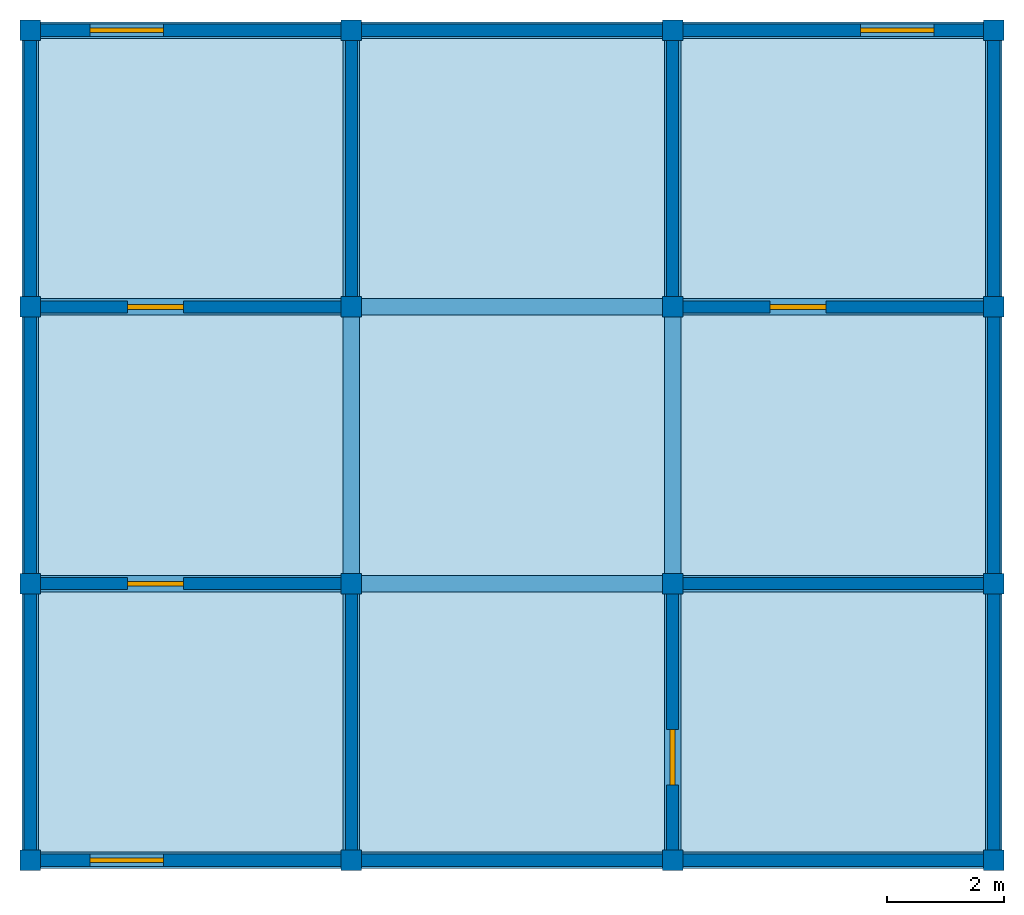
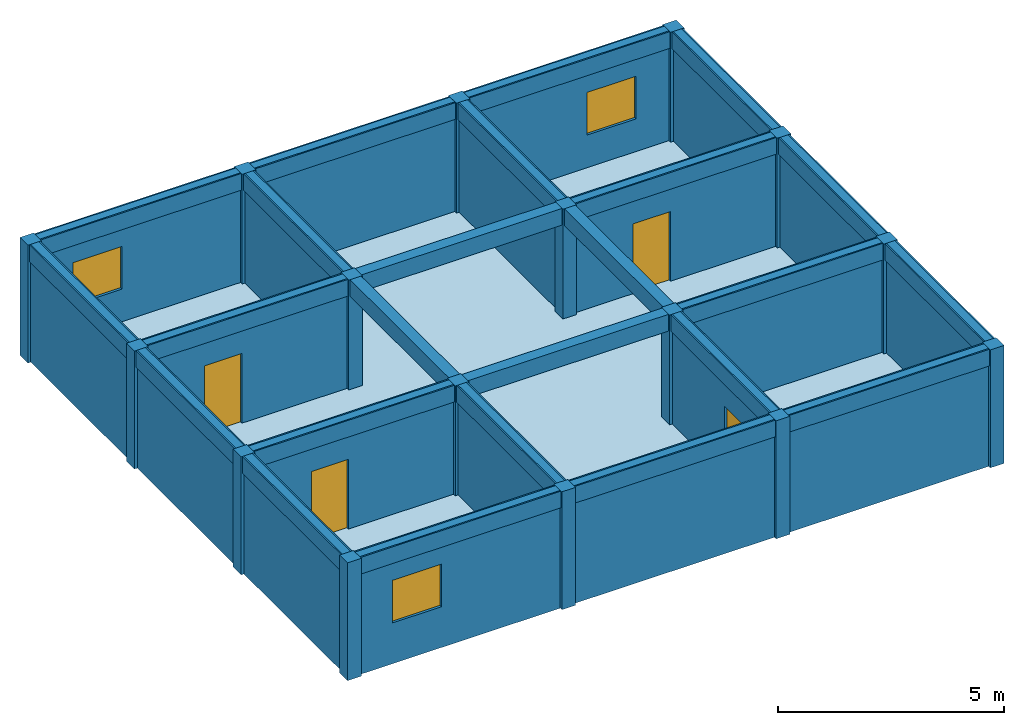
# One storey: 24 beams, 20 walls, 16 columns, 4 doors, 3 windows, 1 slab, 7 openings.
"""IFC4X3 building model written with IfcOpenShell, lengths in metres."""

from ifc_helpers import new_model, si_unit, frame, origin_with_axes, origin_2d, place, context, project, spatial, rectangle, extrude, material, element, fill, save


model = new_model("IFC4X3")

# Units and contexts
model_context = context("Model", 3, precision=1e-05, world=origin_with_axes())
ifc_project = project(units=[si_unit("LENGTHUNIT", "METRE"), si_unit("AREAUNIT", "SQUARE_METRE"), si_unit("VOLUMEUNIT", "CUBIC_METRE")], contexts=[model_context])

# Site, building, storey
site = spatial("IfcSite", under=ifc_project, Name="Antofagasta Parcel", CompositionType="ELEMENT")
building = spatial("IfcBuilding", under=site, Name="Nexo Block", CompositionType="ELEMENT")
storey = spatial("IfcBuildingStorey", under=building, Name="Level 2", CompositionType="ELEMENT", Elevation=3.18)

# Columns
ifc_material_1 = material(Name="Timber")
column_1_placement = place(None, frame((-8.2, -7.065, 3.181), z_axis=(0.0, 0.0, 1.0), x_axis=(1.0, 0.0, 0.0)))
element("IfcColumn", 1, at=column_1_placement, inside=storey, material=ifc_material_1, Name="Column 2.1", ObjectType="Structural Column", PredefinedType="NOTDEFINED", context=model_context, shape_type="SweptSolid", body=[
    extrude(rectangle(XDim=0.35, YDim=0.35, at=origin_2d()), origin_with_axes(), (0.0, 0.0, 1.0), 3.181),
])
column_2_placement = place(None, frame((-8.2, -2.355, 3.181), z_axis=(0.0, 0.0, 1.0), x_axis=(1.0, 0.0, 0.0)))
element("IfcColumn", 2, at=column_2_placement, inside=storey, material=ifc_material_1, Name="Column 2.2", ObjectType="Structural Column", PredefinedType="USERDEFINED", context=model_context, shape_type="SweptSolid", body=[
    extrude(rectangle(XDim=0.35, YDim=0.35, at=origin_2d()), origin_with_axes(), (0.0, 0.0, 1.0), 3.181),
])
column_3_placement = place(None, frame((-8.2, 2.355, 3.181), z_axis=(0.0, 0.0, 1.0), x_axis=(1.0, 0.0, 0.0)))
element("IfcColumn", 3, at=column_3_placement, inside=storey, material=ifc_material_1, Name="Column 2.3", ObjectType="Facade Column", PredefinedType="USERDEFINED", context=model_context, shape_type="SweptSolid", body=[
    extrude(rectangle(XDim=0.35, YDim=0.35, at=origin_2d()), origin_with_axes(), (0.0, 0.0, 1.0), 3.181),
])
column_4_placement = place(None, frame((-8.2, 7.065, 3.181), z_axis=(0.0, 0.0, 1.0), x_axis=(1.0, 0.0, 0.0)))
element("IfcColumn", 4, at=column_4_placement, inside=storey, material=ifc_material_1, Name="Column 2.4", ObjectType="Core Column", PredefinedType="COLUMN", context=model_context, shape_type="SweptSolid", body=[
    extrude(rectangle(XDim=0.35, YDim=0.35, at=origin_2d()), origin_with_axes(), (0.0, 0.0, 1.0), 3.181),
])
column_5_placement = place(None, frame((-2.733, -7.065, 3.181), z_axis=(0.0, 0.0, 1.0), x_axis=(1.0, 0.0, 0.0)))
element("IfcColumn", 5, at=column_5_placement, inside=storey, material=ifc_material_1, Name="Column 2.5", ObjectType="Facade Column", PredefinedType="COLUMN", context=model_context, shape_type="SweptSolid", body=[
    extrude(rectangle(XDim=0.35, YDim=0.35, at=origin_2d()), origin_with_axes(), (0.0, 0.0, 1.0), 3.181),
])
for number, where, z_axis, x_axis, name in (
    (6, (-2.733, -2.355, 3.181), (0.0, 0.0, 1.0), (1.0, 0.0, 0.0), "Column 2.6"),
    (7, (-2.733, 2.355, 3.181), (0.0, 0.0, 1.0), (1.0, 0.0, 0.0), "Column 2.7"),
):
    element("IfcColumn", number, at=place(None, frame(where, z_axis=z_axis, x_axis=x_axis)), inside=storey, material=ifc_material_1, Name=name, ObjectType="Core Column", PredefinedType="COLUMN", context=model_context, shape_type="SweptSolid", body=[
        extrude(rectangle(XDim=0.35, YDim=0.35, at=origin_2d()), origin_with_axes(), (0.0, 0.0, 1.0), 3.181),
    ])
column_6_placement = place(None, frame((-2.733, 7.065, 3.181), z_axis=(0.0, 0.0, 1.0), x_axis=(1.0, 0.0, 0.0)))
element("IfcColumn", 8, at=column_6_placement, inside=storey, material=ifc_material_1, Name="Column 2.8", ObjectType="Corner Column", PredefinedType="PILASTER", context=model_context, shape_type="SweptSolid", body=[
    extrude(rectangle(XDim=0.35, YDim=0.35, at=origin_2d()), origin_with_axes(), (0.0, 0.0, 1.0), 3.181),
])
column_7_placement = place(None, frame((2.734, -7.065, 3.181), z_axis=(0.0, 0.0, 1.0), x_axis=(1.0, 0.0, 0.0)))
element("IfcColumn", 9, at=column_7_placement, inside=storey, material=ifc_material_1, Name="Column 2.9", ObjectType="Core Column", PredefinedType="COLUMN", context=model_context, shape_type="SweptSolid", body=[
    extrude(rectangle(XDim=0.35, YDim=0.35, at=origin_2d()), origin_with_axes(), (0.0, 0.0, 1.0), 3.181),
])
column_8_placement = place(None, frame((2.734, -2.355, 3.181), z_axis=(0.0, 0.0, 1.0), x_axis=(1.0, 0.0, 0.0)))
element("IfcColumn", 10, at=column_8_placement, inside=storey, material=ifc_material_1, Name="Column 2.10", ObjectType="Corner Column", PredefinedType="USERDEFINED", context=model_context, shape_type="SweptSolid", body=[
    extrude(rectangle(XDim=0.35, YDim=0.35, at=origin_2d()), origin_with_axes(), (0.0, 0.0, 1.0), 3.181),
])
column_9_placement = place(None, frame((2.734, 2.355, 3.181), z_axis=(0.0, 0.0, 1.0), x_axis=(1.0, 0.0, 0.0)))
element("IfcColumn", 11, at=column_9_placement, inside=storey, material=ifc_material_1, Name="Column 2.11", ObjectType="Facade Column", PredefinedType="NOTDEFINED", context=model_context, shape_type="SweptSolid", body=[
    extrude(rectangle(XDim=0.35, YDim=0.35, at=origin_2d()), origin_with_axes(), (0.0, 0.0, 1.0), 3.181),
])
column_10_placement = place(None, frame((2.734, 7.065, 3.181), z_axis=(0.0, 0.0, 1.0), x_axis=(1.0, 0.0, 0.0)))
element("IfcColumn", 12, at=column_10_placement, inside=storey, material=ifc_material_1, Name="Column 2.12", ObjectType="Structural Column", PredefinedType="USERDEFINED", context=model_context, shape_type="SweptSolid", body=[
    extrude(rectangle(XDim=0.35, YDim=0.35, at=origin_2d()), origin_with_axes(), (0.0, 0.0, 1.0), 3.181),
])
column_11_placement = place(None, frame((8.201, -7.065, 3.181), z_axis=(0.0, 0.0, 1.0), x_axis=(1.0, 0.0, 0.0)))
element("IfcColumn", 13, at=column_11_placement, inside=storey, material=ifc_material_1, Name="Column 2.13", ObjectType="Core Column", PredefinedType="NOTDEFINED", context=model_context, shape_type="SweptSolid", body=[
    extrude(rectangle(XDim=0.35, YDim=0.35, at=origin_2d()), origin_with_axes(), (0.0, 0.0, 1.0), 3.181),
])
for number, where, z_axis, x_axis, name in (
    (14, (8.201, -2.355, 3.181), (0.0, 0.0, 1.0), (1.0, 0.0, 0.0), "Column 2.14"),
    (15, (8.201, 2.355, 3.181), (0.0, 0.0, 1.0), (1.0, 0.0, 0.0), "Column 2.15"),
):
    element("IfcColumn", number, at=place(None, frame(where, z_axis=z_axis, x_axis=x_axis)), inside=storey, material=ifc_material_1, Name=name, ObjectType="Facade Column", PredefinedType="PILASTER", context=model_context, shape_type="SweptSolid", body=[
        extrude(rectangle(XDim=0.35, YDim=0.35, at=origin_2d()), origin_with_axes(), (0.0, 0.0, 1.0), 3.181),
    ])
column_12_placement = place(None, frame((8.201, 7.065, 3.181), z_axis=(0.0, 0.0, 1.0), x_axis=(1.0, 0.0, 0.0)))
element("IfcColumn", 16, at=column_12_placement, inside=storey, material=ifc_material_1, Name="Column 2.16", ObjectType="Structural Column", PredefinedType="NOTDEFINED", context=model_context, shape_type="SweptSolid", body=[
    extrude(rectangle(XDim=0.35, YDim=0.35, at=origin_2d()), origin_with_axes(), (0.0, 0.0, 1.0), 3.181),
])

# Beams
beam_1_placement = place(None, frame((-5.466, -7.065, 5.912), z_axis=(0.0, 0.0, 1.0), x_axis=(1.0, 0.0, 0.0)))
element("IfcBeam", 17, at=beam_1_placement, inside=storey, material=ifc_material_1, Name="Beam 2.1", ObjectType="Ridge Beam", PredefinedType="HOLLOWCORE", context=model_context, shape_type="SweptSolid", body=[
    extrude(rectangle(XDim=5.467, YDim=0.28, at=origin_2d()), origin_with_axes(), (0.0, 0.0, 1.0), 0.45),
])
beam_2_placement = place(None, frame((0.0, -7.065, 5.912), z_axis=(0.0, 0.0, 1.0), x_axis=(1.0, 0.0, 0.0)))
element("IfcBeam", 18, at=beam_2_placement, inside=storey, material=ifc_material_1, Name="Beam 2.2", ObjectType="Secondary Beam", PredefinedType="HOLLOWCORE", context=model_context, shape_type="SweptSolid", body=[
    extrude(rectangle(XDim=5.467, YDim=0.28, at=origin_2d()), origin_with_axes(), (0.0, 0.0, 1.0), 0.45),
])
beam_3_placement = place(None, frame((5.468, -7.065, 5.912), z_axis=(0.0, 0.0, 1.0), x_axis=(1.0, 0.0, 0.0)))
element("IfcBeam", 19, at=beam_3_placement, inside=storey, material=ifc_material_1, Name="Beam 2.3", ObjectType="Secondary Beam", PredefinedType="BEAM", context=model_context, shape_type="SweptSolid", body=[
    extrude(rectangle(XDim=5.467, YDim=0.28, at=origin_2d()), origin_with_axes(), (0.0, 0.0, 1.0), 0.45),
])
beam_4_placement = place(None, frame((-5.466, -2.355, 5.912), z_axis=(0.0, 0.0, 1.0), x_axis=(1.0, 0.0, 0.0)))
element("IfcBeam", 20, at=beam_4_placement, inside=storey, material=ifc_material_1, Name="Beam 2.4", ObjectType="Transfer Beam", PredefinedType="T_BEAM", context=model_context, shape_type="SweptSolid", body=[
    extrude(rectangle(XDim=5.467, YDim=0.28, at=origin_2d()), origin_with_axes(), (0.0, 0.0, 1.0), 0.45),
])
beam_5_placement = place(None, frame((0.0, -2.355, 5.912), z_axis=(0.0, 0.0, 1.0), x_axis=(1.0, 0.0, 0.0)))
element("IfcBeam", 21, at=beam_5_placement, inside=storey, material=ifc_material_1, Name="Beam 2.5", ObjectType="Ridge Beam", PredefinedType="T_BEAM", context=model_context, shape_type="SweptSolid", body=[
    extrude(rectangle(XDim=5.467, YDim=0.28, at=origin_2d()), origin_with_axes(), (0.0, 0.0, 1.0), 0.45),
])
beam_6_placement = place(None, frame((5.468, -2.355, 5.912), z_axis=(0.0, 0.0, 1.0), x_axis=(1.0, 0.0, 0.0)))
element("IfcBeam", 22, at=beam_6_placement, inside=storey, material=ifc_material_1, Name="Beam 2.6", ObjectType="Transfer Beam", PredefinedType="HOLLOWCORE", context=model_context, shape_type="SweptSolid", body=[
    extrude(rectangle(XDim=5.467, YDim=0.28, at=origin_2d()), origin_with_axes(), (0.0, 0.0, 1.0), 0.45),
])
beam_7_placement = place(None, frame((-5.466, 2.355, 5.912), z_axis=(0.0, 0.0, 1.0), x_axis=(1.0, 0.0, 0.0)))
element("IfcBeam", 23, at=beam_7_placement, inside=storey, material=ifc_material_1, Name="Beam 2.7", ObjectType="Ridge Beam", PredefinedType="BEAM", context=model_context, shape_type="SweptSolid", body=[
    extrude(rectangle(XDim=5.467, YDim=0.28, at=origin_2d()), origin_with_axes(), (0.0, 0.0, 1.0), 0.45),
])
beam_8_placement = place(None, frame((0.0, 2.355, 5.912), z_axis=(0.0, 0.0, 1.0), x_axis=(1.0, 0.0, 0.0)))
element("IfcBeam", 24, at=beam_8_placement, inside=storey, material=ifc_material_1, Name="Beam 2.8", ObjectType="Transfer Beam", PredefinedType="JOIST", context=model_context, shape_type="SweptSolid", body=[
    extrude(rectangle(XDim=5.467, YDim=0.28, at=origin_2d()), origin_with_axes(), (0.0, 0.0, 1.0), 0.45),
])
beam_9_placement = place(None, frame((5.468, 2.355, 5.912), z_axis=(0.0, 0.0, 1.0), x_axis=(1.0, 0.0, 0.0)))
element("IfcBeam", 25, at=beam_9_placement, inside=storey, material=ifc_material_1, Name="Beam 2.9", ObjectType="Rafter Beam", PredefinedType="LINTEL", context=model_context, shape_type="SweptSolid", body=[
    extrude(rectangle(XDim=5.467, YDim=0.28, at=origin_2d()), origin_with_axes(), (0.0, 0.0, 1.0), 0.45),
])
beam_10_placement = place(None, frame((-5.466, 7.065, 5.912), z_axis=(0.0, 0.0, 1.0), x_axis=(1.0, 0.0, 0.0)))
element("IfcBeam", 26, at=beam_10_placement, inside=storey, material=ifc_material_1, Name="Beam 2.10", ObjectType="Primary Beam", PredefinedType="T_BEAM", context=model_context, shape_type="SweptSolid", body=[
    extrude(rectangle(XDim=5.467, YDim=0.28, at=origin_2d()), origin_with_axes(), (0.0, 0.0, 1.0), 0.45),
])
beam_11_placement = place(None, frame((0.0, 7.065, 5.912), z_axis=(0.0, 0.0, 1.0), x_axis=(1.0, 0.0, 0.0)))
element("IfcBeam", 27, at=beam_11_placement, inside=storey, material=ifc_material_1, Name="Beam 2.11", ObjectType="Rafter Beam", PredefinedType="USERDEFINED", context=model_context, shape_type="SweptSolid", body=[
    extrude(rectangle(XDim=5.467, YDim=0.28, at=origin_2d()), origin_with_axes(), (0.0, 0.0, 1.0), 0.45),
])
beam_12_placement = place(None, frame((5.468, 7.065, 5.912), z_axis=(0.0, 0.0, 1.0), x_axis=(1.0, 0.0, 0.0)))
element("IfcBeam", 28, at=beam_12_placement, inside=storey, material=ifc_material_1, Name="Beam 2.12", ObjectType="Secondary Beam", PredefinedType="BEAM", context=model_context, shape_type="SweptSolid", body=[
    extrude(rectangle(XDim=5.467, YDim=0.28, at=origin_2d()), origin_with_axes(), (0.0, 0.0, 1.0), 0.45),
])
beam_13_placement = place(None, frame((-8.2, -4.71, 5.912), z_axis=(0.0, 0.0, 1.0), x_axis=(0.0, 1.0, 0.0)))
element("IfcBeam", 29, at=beam_13_placement, inside=storey, material=ifc_material_1, Name="Beam 2.13", ObjectType="Primary Beam", PredefinedType="SPANDREL", context=model_context, shape_type="SweptSolid", body=[
    extrude(rectangle(XDim=4.71, YDim=0.28, at=origin_2d()), origin_with_axes(), (0.0, 0.0, 1.0), 0.45),
])
beam_14_placement = place(None, frame((-8.2, 0.0, 5.912), z_axis=(0.0, 0.0, 1.0), x_axis=(0.0, 1.0, 0.0)))
element("IfcBeam", 30, at=beam_14_placement, inside=storey, material=ifc_material_1, Name="Beam 2.14", ObjectType="Rafter Beam", PredefinedType="NOTDEFINED", context=model_context, shape_type="SweptSolid", body=[
    extrude(rectangle(XDim=4.71, YDim=0.28, at=origin_2d()), origin_with_axes(), (0.0, 0.0, 1.0), 0.45),
])
beam_15_placement = place(None, frame((-8.2, 4.71, 5.912), z_axis=(0.0, 0.0, 1.0), x_axis=(0.0, 1.0, 0.0)))
element("IfcBeam", 31, at=beam_15_placement, inside=storey, material=ifc_material_1, Name="Beam 2.15", ObjectType="Rafter Beam", PredefinedType="HOLLOWCORE", context=model_context, shape_type="SweptSolid", body=[
    extrude(rectangle(XDim=4.71, YDim=0.28, at=origin_2d()), origin_with_axes(), (0.0, 0.0, 1.0), 0.45),
])
beam_16_placement = place(None, frame((-2.733, -4.71, 5.912), z_axis=(0.0, 0.0, 1.0), x_axis=(0.0, 1.0, 0.0)))
element("IfcBeam", 32, at=beam_16_placement, inside=storey, material=ifc_material_1, Name="Beam 2.16", ObjectType="Ridge Beam", PredefinedType="BEAM", context=model_context, shape_type="SweptSolid", body=[
    extrude(rectangle(XDim=4.71, YDim=0.28, at=origin_2d()), origin_with_axes(), (0.0, 0.0, 1.0), 0.45),
])
beam_17_placement = place(None, frame((-2.733, 0.0, 5.912), z_axis=(0.0, 0.0, 1.0), x_axis=(0.0, 1.0, 0.0)))
element("IfcBeam", 33, at=beam_17_placement, inside=storey, material=ifc_material_1, Name="Beam 2.17", ObjectType="Ridge Beam", PredefinedType="SPANDREL", context=model_context, shape_type="SweptSolid", body=[
    extrude(rectangle(XDim=4.71, YDim=0.28, at=origin_2d()), origin_with_axes(), (0.0, 0.0, 1.0), 0.45),
])
beam_18_placement = place(None, frame((-2.733, 4.71, 5.912), z_axis=(0.0, 0.0, 1.0), x_axis=(0.0, 1.0, 0.0)))
element("IfcBeam", 34, at=beam_18_placement, inside=storey, material=ifc_material_1, Name="Beam 2.18", ObjectType="Secondary Beam", PredefinedType="LINTEL", context=model_context, shape_type="SweptSolid", body=[
    extrude(rectangle(XDim=4.71, YDim=0.28, at=origin_2d()), origin_with_axes(), (0.0, 0.0, 1.0), 0.45),
])
beam_19_placement = place(None, frame((2.734, -4.71, 5.912), z_axis=(0.0, 0.0, 1.0), x_axis=(0.0, 1.0, 0.0)))
element("IfcBeam", 35, at=beam_19_placement, inside=storey, material=ifc_material_1, Name="Beam 2.19", ObjectType="Primary Beam", PredefinedType="BEAM", context=model_context, shape_type="SweptSolid", body=[
    extrude(rectangle(XDim=4.71, YDim=0.28, at=origin_2d()), origin_with_axes(), (0.0, 0.0, 1.0), 0.45),
])
beam_20_placement = place(None, frame((2.734, 0.0, 5.912), z_axis=(0.0, 0.0, 1.0), x_axis=(0.0, 1.0, 0.0)))
element("IfcBeam", 36, at=beam_20_placement, inside=storey, material=ifc_material_1, Name="Beam 2.20", ObjectType="Transfer Beam", PredefinedType="JOIST", context=model_context, shape_type="SweptSolid", body=[
    extrude(rectangle(XDim=4.71, YDim=0.28, at=origin_2d()), origin_with_axes(), (0.0, 0.0, 1.0), 0.45),
])
beam_21_placement = place(None, frame((2.734, 4.71, 5.912), z_axis=(0.0, 0.0, 1.0), x_axis=(0.0, 1.0, 0.0)))
element("IfcBeam", 37, at=beam_21_placement, inside=storey, material=ifc_material_1, Name="Beam 2.21", ObjectType="Ridge Beam", PredefinedType="T_BEAM", context=model_context, shape_type="SweptSolid", body=[
    extrude(rectangle(XDim=4.71, YDim=0.28, at=origin_2d()), origin_with_axes(), (0.0, 0.0, 1.0), 0.45),
])
beam_22_placement = place(None, frame((8.201, -4.71, 5.912), z_axis=(0.0, 0.0, 1.0), x_axis=(0.0, 1.0, 0.0)))
element("IfcBeam", 38, at=beam_22_placement, inside=storey, material=ifc_material_1, Name="Beam 2.22", ObjectType="Transfer Beam", PredefinedType="BEAM", context=model_context, shape_type="SweptSolid", body=[
    extrude(rectangle(XDim=4.71, YDim=0.28, at=origin_2d()), origin_with_axes(), (0.0, 0.0, 1.0), 0.45),
])
beam_23_placement = place(None, frame((8.201, 0.0, 5.912), z_axis=(0.0, 0.0, 1.0), x_axis=(0.0, 1.0, 0.0)))
element("IfcBeam", 39, at=beam_23_placement, inside=storey, material=ifc_material_1, Name="Beam 2.23", ObjectType="Ridge Beam", PredefinedType="USERDEFINED", context=model_context, shape_type="SweptSolid", body=[
    extrude(rectangle(XDim=4.71, YDim=0.28, at=origin_2d()), origin_with_axes(), (0.0, 0.0, 1.0), 0.45),
])
beam_24_placement = place(None, frame((8.201, 4.71, 5.912), z_axis=(0.0, 0.0, 1.0), x_axis=(0.0, 1.0, 0.0)))
element("IfcBeam", 40, at=beam_24_placement, inside=storey, material=ifc_material_1, Name="Beam 2.24", ObjectType="Rafter Beam", PredefinedType="LINTEL", context=model_context, shape_type="SweptSolid", body=[
    extrude(rectangle(XDim=4.71, YDim=0.28, at=origin_2d()), origin_with_axes(), (0.0, 0.0, 1.0), 0.45),
])

# Slab
ifc_material_2 = material(Name="Concrete")
slab_placement = place(None, frame((0.0, 0.0, 3.18), z_axis=(0.0, 0.0, 1.0), x_axis=(1.0, 0.0, 0.0)))
element("IfcSlab", 41, at=slab_placement, inside=storey, material=ifc_material_2, Name="Slab 2", ObjectType="Floor Slab", PredefinedType="FLOOR", context=model_context, shape_type="SweptSolid", body=[
    extrude(rectangle(XDim=16.4, YDim=14.13, at=origin_2d()), origin_with_axes(), (0.0, 0.0, 1.0), 0.22),
])

# Wall, opening, door
ifc_material_3 = material(Name="CLT")
wall_1_placement = place(None, frame((-5.466, -2.355, 3.181), z_axis=(0.0, 0.0, 1.0), x_axis=(1.0, 0.0, 0.0)))
wall_1 = element("IfcWall", 42, at=wall_1_placement, inside=storey, material=ifc_material_3, Name="Wall 2.1", ObjectType="Corridor Partition", PredefinedType="POLYGONAL", context=model_context, shape_type="SweptSolid", body=[
    extrude(rectangle(XDim=5.467, YDim=0.207713, at=origin_2d()), origin_with_axes(), (0.0, 0.0, 1.0), 3.181),
])
opening_1_placement = place(None, frame((-6.066, -2.355, 3.181), z_axis=(0.0, 0.0, 1.0), x_axis=(1.0, 0.0, 0.0)))
opening_1 = element("IfcOpeningElement", 43, at=opening_1_placement, cuts=wall_1, Name="Door opening 2.1", ObjectType="Door Opening", PredefinedType="OPENING", context=model_context, shape_type="SweptSolid", body=[
    extrude(rectangle(XDim=0.95, YDim=0.287713, at=origin_2d()), origin_with_axes(), (0.0, 0.0, 1.0), 2.1),
])
door_1_placement = place(None, frame((-6.066, -2.355, 3.181), z_axis=(0.0, 0.0, 1.0), x_axis=(1.0, 0.0, 0.0)))
door_1 = element("IfcDoor", 44, at=door_1_placement, inside=storey, Name="Door 2.1", ObjectType="Fire Door", OverallHeight=2.1, OverallWidth=0.95, context=model_context, shape_type="SweptSolid", body=[
    extrude(rectangle(XDim=0.95, YDim=0.08, at=origin_2d()), origin_with_axes(), (0.0, 0.0, 1.0), 2.1),
])
fill(opening_1, door_1)

# Wall
ifc_material_4 = material(Name="Brick")
wall_2_placement = place(None, frame((-2.7325, -4.71, 3.181), z_axis=(0.0, 0.0, 1.0), x_axis=(0.0, 1.0, 0.0)))
element("IfcWall", 45, at=wall_2_placement, inside=storey, material=ifc_material_4, Name="Wall 2.2", ObjectType="Corridor Partition", PredefinedType="PARAPET", context=model_context, shape_type="SweptSolid", body=[
    extrude(rectangle(XDim=4.71, YDim=0.207713, at=origin_2d()), origin_with_axes(), (0.0, 0.0, 1.0), 3.181),
])

# Wall, opening, window
wall_3_placement = place(None, frame((-5.466, -7.065, 3.181), z_axis=(0.0, 0.0, 1.0), x_axis=(1.0, 0.0, 0.0)))
wall_3 = element("IfcWall", 46, at=wall_3_placement, inside=storey, material=ifc_material_3, Name="Wall 2.3", ObjectType="Exterior Wall", PredefinedType="MOVABLE", context=model_context, shape_type="SweptSolid", body=[
    extrude(rectangle(XDim=5.467, YDim=0.207713, at=origin_2d()), origin_with_axes(), (0.0, 0.0, 1.0), 3.181),
])
opening_2_placement = place(None, frame((-6.559, -7.065, 4.281), z_axis=(0.0, 0.0, 1.0), x_axis=(1.0, 0.0, 0.0)))
opening_2 = element("IfcOpeningElement", 47, at=opening_2_placement, cuts=wall_3, Name="Window opening 2.2", ObjectType="Window Opening", PredefinedType="OPENING", context=model_context, shape_type="SweptSolid", body=[
    extrude(rectangle(XDim=1.25, YDim=0.287713, at=origin_2d()), origin_with_axes(), (0.0, 0.0, 1.0), 1.15),
])
window_1_placement = place(None, frame((-6.559, -7.065, 4.281), z_axis=(0.0, 0.0, 1.0), x_axis=(1.0, 0.0, 0.0)))
window_1 = element("IfcWindow", 48, at=window_1_placement, inside=storey, Name="Window 2.2", ObjectType="Louvre Window", OverallHeight=1.15, OverallWidth=1.25, context=model_context, shape_type="SweptSolid", body=[
    extrude(rectangle(XDim=1.25, YDim=0.08, at=origin_2d()), origin_with_axes(), (0.0, 0.0, 1.0), 1.15),
])
fill(opening_2, window_1)

# Wall
wall_4_placement = place(None, frame((-8.1995, -4.71, 3.181), z_axis=(0.0, 0.0, 1.0), x_axis=(0.0, 1.0, 0.0)))
element("IfcWall", 49, at=wall_4_placement, inside=storey, material=ifc_material_4, Name="Wall 2.4", ObjectType="Exterior Wall", PredefinedType="STANDARD", context=model_context, shape_type="SweptSolid", body=[
    extrude(rectangle(XDim=4.71, YDim=0.207713, at=origin_2d()), origin_with_axes(), (0.0, 0.0, 1.0), 3.181),
])

# Wall, opening, door
wall_5_placement = place(None, frame((2.7335, -4.71, 3.181), z_axis=(0.0, 0.0, 1.0), x_axis=(0.0, 1.0, 0.0)))
wall_5 = element("IfcWall", 50, at=wall_5_placement, inside=storey, material=ifc_material_2, Name="Wall 2.5", ObjectType="Corridor Partition", PredefinedType="POLYGONAL", context=model_context, shape_type="SweptSolid", body=[
    extrude(rectangle(XDim=4.71, YDim=0.207713, at=origin_2d()), origin_with_axes(), (0.0, 0.0, 1.0), 3.181),
])
opening_3_placement = place(None, frame((2.733, -5.31, 3.181), z_axis=(0.0, 0.0, 1.0), x_axis=(0.0, 1.0, 0.0)))
opening_3 = element("IfcOpeningElement", 51, at=opening_3_placement, cuts=wall_5, Name="Door opening 2.3", ObjectType="Door Opening", PredefinedType="OPENING", context=model_context, shape_type="SweptSolid", body=[
    extrude(rectangle(XDim=0.95, YDim=0.287713, at=origin_2d()), origin_with_axes(), (0.0, 0.0, 1.0), 2.1),
])
door_2_placement = place(None, frame((2.733, -5.31, 3.181), z_axis=(0.0, 0.0, 1.0), x_axis=(0.0, 1.0, 0.0)))
door_2 = element("IfcDoor", 52, at=door_2_placement, inside=storey, Name="Door 2.3", ObjectType="Interior Door", OverallHeight=2.1, OverallWidth=0.95, context=model_context, shape_type="SweptSolid", body=[
    extrude(rectangle(XDim=0.95, YDim=0.08, at=origin_2d()), origin_with_axes(), (0.0, 0.0, 1.0), 2.1),
])
fill(opening_3, door_2)

# Walls
wall_6_placement = place(None, frame((0.0, -7.065, 3.181), z_axis=(0.0, 0.0, 1.0), x_axis=(1.0, 0.0, 0.0)))
element("IfcWall", 53, at=wall_6_placement, inside=storey, material=ifc_material_4, Name="Wall 2.6", ObjectType="Exterior Wall", PredefinedType="STANDARD", context=model_context, shape_type="SweptSolid", body=[
    extrude(rectangle(XDim=5.467, YDim=0.207713, at=origin_2d()), origin_with_axes(), (0.0, 0.0, 1.0), 3.181),
])
wall_7_placement = place(None, frame((5.467, -2.355, 3.181), z_axis=(0.0, 0.0, 1.0), x_axis=(1.0, 0.0, 0.0)))
element("IfcWall", 54, at=wall_7_placement, inside=storey, material=ifc_material_3, Name="Wall 2.7", ObjectType="Corridor Partition", PredefinedType="POLYGONAL", context=model_context, shape_type="SweptSolid", body=[
    extrude(rectangle(XDim=5.467, YDim=0.207713, at=origin_2d()), origin_with_axes(), (0.0, 0.0, 1.0), 3.181),
])
wall_8_placement = place(None, frame((8.2005, -4.71, 3.181), z_axis=(0.0, 0.0, 1.0), x_axis=(0.0, 1.0, 0.0)))
element("IfcWall", 55, at=wall_8_placement, inside=storey, material=ifc_material_4, Name="Wall 2.8", ObjectType="Exterior Wall", PredefinedType="PLUMBINGWALL", context=model_context, shape_type="SweptSolid", body=[
    extrude(rectangle(XDim=4.71, YDim=0.207713, at=origin_2d()), origin_with_axes(), (0.0, 0.0, 1.0), 3.181),
])
wall_9_placement = place(None, frame((5.467, -7.065, 3.181), z_axis=(0.0, 0.0, 1.0), x_axis=(1.0, 0.0, 0.0)))
element("IfcWall", 56, at=wall_9_placement, inside=storey, material=ifc_material_3, Name="Wall 2.9", ObjectType="Exterior Wall", PredefinedType="SOLIDWALL", context=model_context, shape_type="SweptSolid", body=[
    extrude(rectangle(XDim=5.467, YDim=0.207713, at=origin_2d()), origin_with_axes(), (0.0, 0.0, 1.0), 3.181),
])

# Wall, opening, door
wall_10_placement = place(None, frame((-5.466, 2.355, 3.181), z_axis=(0.0, 0.0, 1.0), x_axis=(1.0, 0.0, 0.0)))
wall_10 = element("IfcWall", 57, at=wall_10_placement, inside=storey, material=ifc_material_4, Name="Wall 2.10", ObjectType="Corridor Partition", PredefinedType="SOLIDWALL", context=model_context, shape_type="SweptSolid", body=[
    extrude(rectangle(XDim=5.467, YDim=0.207713, at=origin_2d()), origin_with_axes(), (0.0, 0.0, 1.0), 3.181),
])
opening_4_placement = place(None, frame((-6.066, 2.355, 3.181), z_axis=(0.0, 0.0, 1.0), x_axis=(1.0, 0.0, 0.0)))
opening_4 = element("IfcOpeningElement", 58, at=opening_4_placement, cuts=wall_10, Name="Door opening 2.4", ObjectType="Door Opening", PredefinedType="OPENING", context=model_context, shape_type="SweptSolid", body=[
    extrude(rectangle(XDim=0.95, YDim=0.287713, at=origin_2d()), origin_with_axes(), (0.0, 0.0, 1.0), 2.1),
])
door_3_placement = place(None, frame((-6.066, 2.355, 3.181), z_axis=(0.0, 0.0, 1.0), x_axis=(1.0, 0.0, 0.0)))
door_3 = element("IfcDoor", 59, at=door_3_placement, inside=storey, Name="Door 2.4", ObjectType="Interior Door", OverallHeight=2.1, OverallWidth=0.95, context=model_context, shape_type="SweptSolid", body=[
    extrude(rectangle(XDim=0.95, YDim=0.08, at=origin_2d()), origin_with_axes(), (0.0, 0.0, 1.0), 2.1),
])
fill(opening_4, door_3)

# Wall
ifc_material_5 = material(Name="Gypsum")
wall_11_placement = place(None, frame((-8.1995, 0.0, 3.181), z_axis=(0.0, 0.0, 1.0), x_axis=(0.0, 1.0, 0.0)))
element("IfcWall", 60, at=wall_11_placement, inside=storey, material=ifc_material_5, Name="Wall 2.11", ObjectType="Exterior Wall", PredefinedType="POLYGONAL", context=model_context, shape_type="SweptSolid", body=[
    extrude(rectangle(XDim=4.71, YDim=0.207713, at=origin_2d()), origin_with_axes(), (0.0, 0.0, 1.0), 3.181),
])

# Wall, opening, door
wall_12_placement = place(None, frame((5.467, 2.355, 3.181), z_axis=(0.0, 0.0, 1.0), x_axis=(1.0, 0.0, 0.0)))
wall_12 = element("IfcWall", 61, at=wall_12_placement, inside=storey, material=ifc_material_3, Name="Wall 2.12", ObjectType="Corridor Partition", PredefinedType="PARAPET", context=model_context, shape_type="SweptSolid", body=[
    extrude(rectangle(XDim=5.467, YDim=0.207713, at=origin_2d()), origin_with_axes(), (0.0, 0.0, 1.0), 3.181),
])
opening_5_placement = place(None, frame((4.867, 2.355, 3.181), z_axis=(0.0, 0.0, 1.0), x_axis=(1.0, 0.0, 0.0)))
opening_5 = element("IfcOpeningElement", 62, at=opening_5_placement, cuts=wall_12, Name="Door opening 2.6", ObjectType="Door Opening", PredefinedType="OPENING", context=model_context, shape_type="SweptSolid", body=[
    extrude(rectangle(XDim=0.95, YDim=0.287713, at=origin_2d()), origin_with_axes(), (0.0, 0.0, 1.0), 2.1),
])
door_4_placement = place(None, frame((4.867, 2.355, 3.181), z_axis=(0.0, 0.0, 1.0), x_axis=(1.0, 0.0, 0.0)))
door_4 = element("IfcDoor", 63, at=door_4_placement, inside=storey, Name="Door 2.6", ObjectType="Interior Door", OverallHeight=2.1, OverallWidth=0.95, context=model_context, shape_type="SweptSolid", body=[
    extrude(rectangle(XDim=0.95, YDim=0.08, at=origin_2d()), origin_with_axes(), (0.0, 0.0, 1.0), 2.1),
])
fill(opening_5, door_4)

# Wall
wall_13_placement = place(None, frame((8.2005, 0.0, 3.181), z_axis=(0.0, 0.0, 1.0), x_axis=(0.0, 1.0, 0.0)))
element("IfcWall", 64, at=wall_13_placement, inside=storey, material=ifc_material_2, Name="Wall 2.13", ObjectType="Exterior Wall", PredefinedType="MOVABLE", context=model_context, shape_type="SweptSolid", body=[
    extrude(rectangle(XDim=4.71, YDim=0.207713, at=origin_2d()), origin_with_axes(), (0.0, 0.0, 1.0), 3.181),
])

# Wall, opening, window
wall_14_placement = place(None, frame((-5.466, 7.065, 3.181), z_axis=(0.0, 0.0, 1.0), x_axis=(1.0, 0.0, 0.0)))
wall_14 = element("IfcWall", 65, at=wall_14_placement, inside=storey, material=ifc_material_4, Name="Wall 2.14", ObjectType="Exterior Wall", PredefinedType="SOLIDWALL", context=model_context, shape_type="SweptSolid", body=[
    extrude(rectangle(XDim=5.467, YDim=0.207713, at=origin_2d()), origin_with_axes(), (0.0, 0.0, 1.0), 3.181),
])
opening_6_placement = place(None, frame((-6.559, 7.065, 4.281), z_axis=(0.0, 0.0, 1.0), x_axis=(1.0, 0.0, 0.0)))
opening_6 = element("IfcOpeningElement", 66, at=opening_6_placement, cuts=wall_14, Name="Window opening 2.5", ObjectType="Window Opening", PredefinedType="OPENING", context=model_context, shape_type="SweptSolid", body=[
    extrude(rectangle(XDim=1.25, YDim=0.287713, at=origin_2d()), origin_with_axes(), (0.0, 0.0, 1.0), 1.15),
])
window_2_placement = place(None, frame((-6.559, 7.065, 4.281), z_axis=(0.0, 0.0, 1.0), x_axis=(1.0, 0.0, 0.0)))
window_2 = element("IfcWindow", 67, at=window_2_placement, inside=storey, Name="Window 2.5", ObjectType="Louvre Window", OverallHeight=1.15, OverallWidth=1.25, context=model_context, shape_type="SweptSolid", body=[
    extrude(rectangle(XDim=1.25, YDim=0.08, at=origin_2d()), origin_with_axes(), (0.0, 0.0, 1.0), 1.15),
])
fill(opening_6, window_2)

# Walls
wall_15_placement = place(None, frame((-2.7325, 4.71, 3.181), z_axis=(0.0, 0.0, 1.0), x_axis=(0.0, 1.0, 0.0)))
element("IfcWall", 68, at=wall_15_placement, inside=storey, material=ifc_material_2, Name="Wall 2.15", ObjectType="Corridor Partition", PredefinedType="SHEAR", context=model_context, shape_type="SweptSolid", body=[
    extrude(rectangle(XDim=4.71, YDim=0.207713, at=origin_2d()), origin_with_axes(), (0.0, 0.0, 1.0), 3.181),
])
wall_16_placement = place(None, frame((-8.1995, 4.71, 3.181), z_axis=(0.0, 0.0, 1.0), x_axis=(0.0, 1.0, 0.0)))
element("IfcWall", 69, at=wall_16_placement, inside=storey, material=ifc_material_2, Name="Wall 2.16", ObjectType="Exterior Wall", PredefinedType="PARAPET", context=model_context, shape_type="SweptSolid", body=[
    extrude(rectangle(XDim=4.71, YDim=0.207713, at=origin_2d()), origin_with_axes(), (0.0, 0.0, 1.0), 3.181),
])
wall_17_placement = place(None, frame((0.0, 7.065, 3.181), z_axis=(0.0, 0.0, 1.0), x_axis=(1.0, 0.0, 0.0)))
element("IfcWall", 70, at=wall_17_placement, inside=storey, material=ifc_material_2, Name="Wall 2.17", ObjectType="Exterior Wall", PredefinedType="PARAPET", context=model_context, shape_type="SweptSolid", body=[
    extrude(rectangle(XDim=5.467, YDim=0.207713, at=origin_2d()), origin_with_axes(), (0.0, 0.0, 1.0), 3.181),
])
wall_18_placement = place(None, frame((2.7335, 4.71, 3.181), z_axis=(0.0, 0.0, 1.0), x_axis=(0.0, 1.0, 0.0)))
element("IfcWall", 71, at=wall_18_placement, inside=storey, material=ifc_material_4, Name="Wall 2.18", ObjectType="Corridor Partition", PredefinedType="STANDARD", context=model_context, shape_type="SweptSolid", body=[
    extrude(rectangle(XDim=4.71, YDim=0.207713, at=origin_2d()), origin_with_axes(), (0.0, 0.0, 1.0), 3.181),
])

# Wall, opening, window
wall_19_placement = place(None, frame((5.467, 7.065, 3.181), z_axis=(0.0, 0.0, 1.0), x_axis=(1.0, 0.0, 0.0)))
wall_19 = element("IfcWall", 72, at=wall_19_placement, inside=storey, material=ifc_material_2, Name="Wall 2.19", ObjectType="Exterior Wall", PredefinedType="NOTDEFINED", context=model_context, shape_type="SweptSolid", body=[
    extrude(rectangle(XDim=5.467, YDim=0.207713, at=origin_2d()), origin_with_axes(), (0.0, 0.0, 1.0), 3.181),
])
opening_7_placement = place(None, frame((6.56, 7.065, 4.281), z_axis=(0.0, 0.0, 1.0), x_axis=(1.0, 0.0, 0.0)))
opening_7 = element("IfcOpeningElement", 73, at=opening_7_placement, cuts=wall_19, Name="Window opening 2.7", ObjectType="Window Opening", PredefinedType="OPENING", context=model_context, shape_type="SweptSolid", body=[
    extrude(rectangle(XDim=1.25, YDim=0.287713, at=origin_2d()), origin_with_axes(), (0.0, 0.0, 1.0), 1.15),
])
window_3_placement = place(None, frame((6.56, 7.065, 4.281), z_axis=(0.0, 0.0, 1.0), x_axis=(1.0, 0.0, 0.0)))
window_3 = element("IfcWindow", 74, at=window_3_placement, inside=storey, Name="Window 2.7", ObjectType="Curtain Window", OverallHeight=1.15, OverallWidth=1.25, context=model_context, shape_type="SweptSolid", body=[
    extrude(rectangle(XDim=1.25, YDim=0.08, at=origin_2d()), origin_with_axes(), (0.0, 0.0, 1.0), 1.15),
])
fill(opening_7, window_3)

# Wall
wall_20_placement = place(None, frame((8.2005, 4.71, 3.181), z_axis=(0.0, 0.0, 1.0), x_axis=(0.0, 1.0, 0.0)))
element("IfcWall", 75, at=wall_20_placement, inside=storey, material=ifc_material_2, Name="Wall 2.20", ObjectType="Exterior Wall", PredefinedType="SHEAR", context=model_context, shape_type="SweptSolid", body=[
    extrude(rectangle(XDim=4.71, YDim=0.207713, at=origin_2d()), origin_with_axes(), (0.0, 0.0, 1.0), 3.181),
])

save(model, "model.ifc")
